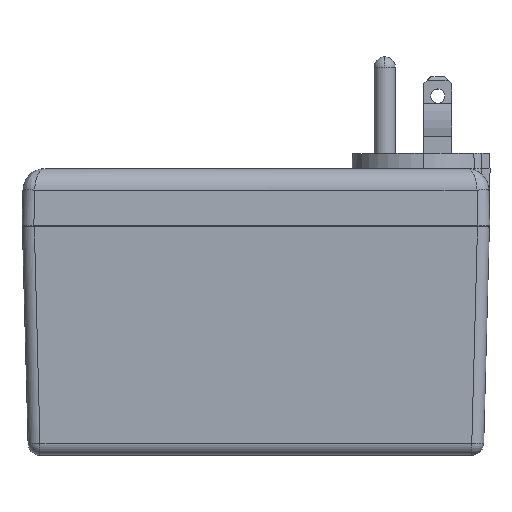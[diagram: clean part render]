
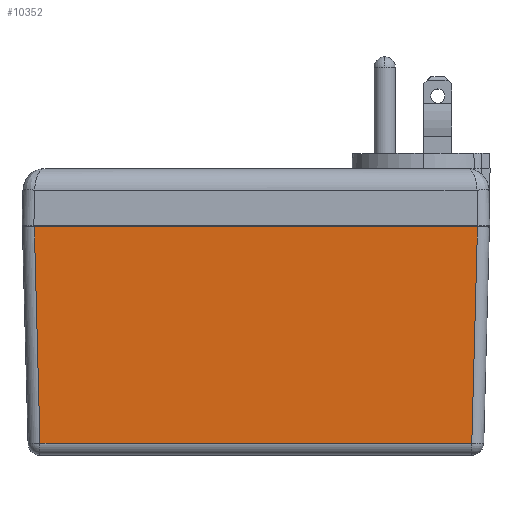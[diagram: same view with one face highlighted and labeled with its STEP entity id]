
A CAD part, top view. The second image highlights one B-rep face of the part: STEP entity #10352.
In plain terms, the highlighted planar face has unit normal (0, -0.026, 1).
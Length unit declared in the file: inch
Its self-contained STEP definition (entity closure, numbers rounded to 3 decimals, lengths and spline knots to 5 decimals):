
#335 = ORIENTED_EDGE ( 'NONE', *, *, #16013, .F. ) ;
#336 = ORIENTED_EDGE ( 'NONE', *, *, #16012, .T. ) ;
#337 = ORIENTED_EDGE ( 'NONE', *, *, #15997, .T. ) ;
#345 = ORIENTED_EDGE ( 'NONE', *, *, #16011, .T. ) ;
#1031 = FACE_OUTER_BOUND ( 'NONE', #14947, .T. ) ;
#6998 = CARTESIAN_POINT ( 'NONE',  ( -2.0545, -1.90275, 1.06617 ) ) ;
#7004 = DIRECTION ( 'NONE',  ( 1., 0., 0. ) ) ;
#7036 = CARTESIAN_POINT ( 'NONE',  ( 1.94679, -0.10471, 1.11326 ) ) ;
#7037 = DIRECTION ( 'NONE',  ( 0.026, 0.999, 0.026 ) ) ;
#7038 = CARTESIAN_POINT ( 'NONE',  ( -1.94961, 0.00274, 1.11607 ) ) ;
#7039 = DIRECTION ( 'NONE',  ( 0.026, -0.999, -0.026 ) ) ;
#7040 = CARTESIAN_POINT ( 'NONE',  ( -2.0545, 0., 1.116 ) ) ;
#7041 = DIRECTION ( 'NONE',  ( 1., 0., 0. ) ) ;
#8819 = AXIS2_PLACEMENT_3D ( 'NONE', #13746, #13738, #13735 ) ;
#9787 = VECTOR ( 'NONE', #7041, 39.37008 ) ;
#9788 = LINE ( 'NONE', #7040, #9787 ) ;
#9789 = VECTOR ( 'NONE', #7039, 39.37008 ) ;
#9790 = LINE ( 'NONE', #7038, #9789 ) ;
#9791 = VECTOR ( 'NONE', #7037, 39.37008 ) ;
#9792 = LINE ( 'NONE', #7036, #9791 ) ;
#9816 = LINE ( 'NONE', #6998, #9819 ) ;
#9819 = VECTOR ( 'NONE', #7004, 39.37008 ) ;
#10352 = ADVANCED_FACE ( 'NONE', ( #1031 ), #13743, .T. ) ;
#10585 = VERTEX_POINT ( 'NONE', #13186 ) ;
#10590 = VERTEX_POINT ( 'NONE', #13174 ) ;
#10605 = VERTEX_POINT ( 'NONE', #13027 ) ;
#10913 = VERTEX_POINT ( 'NONE', #15523 ) ;
#13027 = CARTESIAN_POINT ( 'NONE',  ( 1.89971, -1.90275, 1.06617 ) ) ;
#13174 = CARTESIAN_POINT ( 'NONE',  ( -1.94954, 0., 1.116 ) ) ;
#13186 = CARTESIAN_POINT ( 'NONE',  ( 1.94954, 0., 1.116 ) ) ;
#13735 = DIRECTION ( 'NONE',  ( 0., -1., -0.026 ) ) ;
#13738 = DIRECTION ( 'NONE',  ( 0., -0.026, 1. ) ) ;
#13743 = PLANE ( 'NONE',  #8819 ) ;
#13746 = CARTESIAN_POINT ( 'NONE',  ( -2.0545, 0., 1.116 ) ) ;
#14947 = EDGE_LOOP ( 'NONE', ( #337, #345, #335, #336 ) ) ;
#15523 = CARTESIAN_POINT ( 'NONE',  ( -1.89971, -1.90275, 1.06617 ) ) ;
#15997 = EDGE_CURVE ( 'NONE', #10913, #10605, #9816, .T. ) ;
#16011 = EDGE_CURVE ( 'NONE', #10605, #10585, #9792, .T. ) ;
#16012 = EDGE_CURVE ( 'NONE', #10590, #10913, #9790, .T. ) ;
#16013 = EDGE_CURVE ( 'NONE', #10590, #10585, #9788, .T. ) ;
